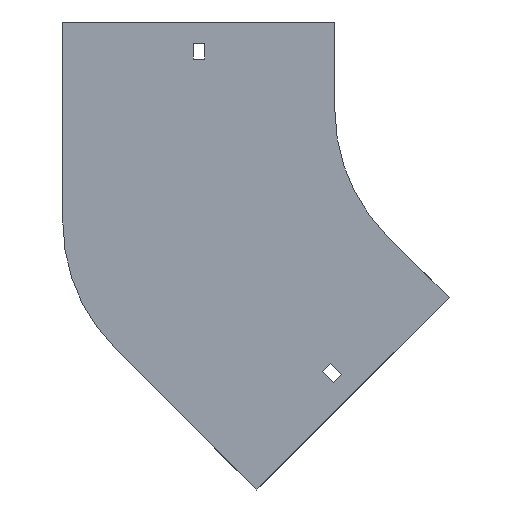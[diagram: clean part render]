
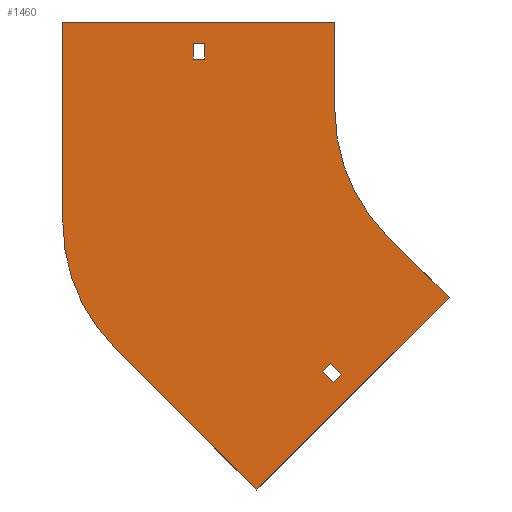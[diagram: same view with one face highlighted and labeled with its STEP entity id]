
A CAD part, front view. The second image highlights one B-rep face of the part: STEP entity #1460.
In plain terms, the highlighted planar face has unit normal (0, -1, 0).
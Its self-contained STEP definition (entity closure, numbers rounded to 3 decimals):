
#9 = EDGE_CURVE ( 'NONE', #274, #455, #315, .T. ) ;
#11 = VERTEX_POINT ( 'NONE', #634 ) ;
#34 = DIRECTION ( 'NONE',  ( 0.707, 0., 0.707 ) ) ;
#74 = VECTOR ( 'NONE', #608, 1000. ) ;
#81 = VERTEX_POINT ( 'NONE', #1666 ) ;
#93 = VECTOR ( 'NONE', #1421, 1000. ) ;
#94 = DIRECTION ( 'NONE',  ( -0.707, 0., 0.707 ) ) ;
#99 = ORIENTED_EDGE ( 'NONE', *, *, #418, .F. ) ;
#107 = DIRECTION ( 'NONE',  ( 0., 0., 1. ) ) ;
#135 = EDGE_CURVE ( 'NONE', #1637, #81, #208, .T. ) ;
#160 = CARTESIAN_POINT ( 'NONE',  ( -173.75, 0., 38. ) ) ;
#169 = CARTESIAN_POINT ( 'NONE',  ( -35.355, 0., -106.066 ) ) ;
#188 = CARTESIAN_POINT ( 'NONE',  ( -100., 0., 50. ) ) ;
#208 = LINE ( 'NONE', #1542, #1818 ) ;
#219 = LINE ( 'NONE', #1611, #1664 ) ;
#243 = DIRECTION ( 'NONE',  ( 0., -1., 0. ) ) ;
#244 = ORIENTED_EDGE ( 'NONE', *, *, #1276, .F. ) ;
#249 = VECTOR ( 'NONE', #786, 1000. ) ;
#274 = VERTEX_POINT ( 'NONE', #994 ) ;
#283 = DIRECTION ( 'NONE',  ( 0., 0., -1. ) ) ;
#285 = CARTESIAN_POINT ( 'NONE',  ( -180.25, 0., 38. ) ) ;
#288 = CARTESIAN_POINT ( 'NONE',  ( -100., 0., 0. ) ) ;
#293 = VERTEX_POINT ( 'NONE', #1581 ) ;
#302 = EDGE_CURVE ( 'NONE', #455, #1237, #680, .T. ) ;
#304 = VERTEX_POINT ( 'NONE', #1911 ) ;
#313 = EDGE_CURVE ( 'NONE', #1348, #11, #530, .T. ) ;
#315 = LINE ( 'NONE', #169, #1461 ) ;
#354 = EDGE_CURVE ( 'NONE', #1370, #274, #219, .T. ) ;
#361 = LINE ( 'NONE', #1568, #93 ) ;
#371 = LINE ( 'NONE', #1844, #1540 ) ;
#376 = VERTEX_POINT ( 'NONE', #1154 ) ;
#383 = CARTESIAN_POINT ( 'NONE',  ( -102.354, 0., -143.366 ) ) ;
#418 = EDGE_CURVE ( 'NONE', #11, #376, #1327, .T. ) ;
#440 = CARTESIAN_POINT ( 'NONE',  ( -180.25, 0., 29. ) ) ;
#455 = VERTEX_POINT ( 'NONE', #1770 ) ;
#498 = EDGE_LOOP ( 'NONE', ( #1279, #762, #852, #1127 ) ) ;
#504 = ORIENTED_EDGE ( 'NONE', *, *, #354, .F. ) ;
#508 = CARTESIAN_POINT ( 'NONE',  ( -70.711, 0., -70.711 ) ) ;
#525 = CARTESIAN_POINT ( 'NONE',  ( -180.25, 0., 29. ) ) ;
#530 = LINE ( 'NONE', #383, #1760 ) ;
#534 = ORIENTED_EDGE ( 'NONE', *, *, #1900, .F. ) ;
#539 = EDGE_CURVE ( 'NONE', #376, #304, #915, .T. ) ;
#549 = ORIENTED_EDGE ( 'NONE', *, *, #313, .F. ) ;
#557 = LINE ( 'NONE', #1152, #713 ) ;
#572 = DIRECTION ( 'NONE',  ( 0., -1., 0. ) ) ;
#606 = LINE ( 'NONE', #1038, #966 ) ;
#608 = DIRECTION ( 'NONE',  ( 0.707, 0., -0.707 ) ) ;
#619 = VECTOR ( 'NONE', #1679, 1000. ) ;
#634 = CARTESIAN_POINT ( 'NONE',  ( -102.354, 0., -143.366 ) ) ;
#657 = LINE ( 'NONE', #188, #249 ) ;
#671 = DIRECTION ( 'NONE',  ( 0.707, 0., -0.707 ) ) ;
#680 = LINE ( 'NONE', #1423, #1701 ) ;
#702 = CARTESIAN_POINT ( 'NONE',  ( 0., 0., 0. ) ) ;
#713 = VECTOR ( 'NONE', #1165, 1000. ) ;
#762 = ORIENTED_EDGE ( 'NONE', *, *, #1172, .T. ) ;
#786 = DIRECTION ( 'NONE',  ( 0., 0., -1. ) ) ;
#830 = EDGE_LOOP ( 'NONE', ( #1853, #1420, #1124, #1534, #1558, #504, #534, #1452 ) ) ;
#831 = ORIENTED_EDGE ( 'NONE', *, *, #539, .F. ) ;
#838 = VERTEX_POINT ( 'NONE', #285 ) ;
#842 = CARTESIAN_POINT ( 'NONE',  ( -154., 0., -63.789 ) ) ;
#852 = ORIENTED_EDGE ( 'NONE', *, *, #135, .T. ) ;
#915 = LINE ( 'NONE', #1376, #74 ) ;
#966 = VECTOR ( 'NONE', #1659, 1000. ) ;
#982 = CIRCLE ( 'NONE', #1621, 100. ) ;
#994 = CARTESIAN_POINT ( 'NONE',  ( -35.355, 0., -106.066 ) ) ;
#1025 = CARTESIAN_POINT ( 'NONE',  ( 0., 0., 0. ) ) ;
#1029 = VECTOR ( 'NONE', #34, 1000. ) ;
#1038 = CARTESIAN_POINT ( 'NONE',  ( -180.25, 0., 38. ) ) ;
#1065 = LINE ( 'NONE', #440, #619 ) ;
#1098 = DIRECTION ( 'NONE',  ( 0., 0., 1. ) ) ;
#1105 = EDGE_CURVE ( 'NONE', #1942, #1803, #557, .T. ) ;
#1124 = ORIENTED_EDGE ( 'NONE', *, *, #1908, .F. ) ;
#1127 = ORIENTED_EDGE ( 'NONE', *, *, #1258, .T. ) ;
#1135 = VERTEX_POINT ( 'NONE', #288 ) ;
#1152 = CARTESIAN_POINT ( 'NONE',  ( -254., 0., -63.789 ) ) ;
#1154 = CARTESIAN_POINT ( 'NONE',  ( -106.95, 0., -147.962 ) ) ;
#1161 = DIRECTION ( 'NONE',  ( 0., 0., -1. ) ) ;
#1162 = EDGE_LOOP ( 'NONE', ( #244, #831, #99, #549 ) ) ;
#1165 = DIRECTION ( 'NONE',  ( 0., 0., 1. ) ) ;
#1172 = EDGE_CURVE ( 'NONE', #838, #1637, #606, .T. ) ;
#1206 = CARTESIAN_POINT ( 'NONE',  ( -100.586, 0., -154.326 ) ) ;
#1237 = VERTEX_POINT ( 'NONE', #1823 ) ;
#1258 = EDGE_CURVE ( 'NONE', #81, #1865, #1065, .T. ) ;
#1276 = EDGE_CURVE ( 'NONE', #304, #1348, #1382, .T. ) ;
#1279 = ORIENTED_EDGE ( 'NONE', *, *, #1323, .T. ) ;
#1323 = EDGE_CURVE ( 'NONE', #1865, #838, #371, .T. ) ;
#1327 = LINE ( 'NONE', #1661, #1351 ) ;
#1329 = FACE_OUTER_BOUND ( 'NONE', #830, .T. ) ;
#1345 = EDGE_CURVE ( 'NONE', #293, #1135, #657, .T. ) ;
#1348 = VERTEX_POINT ( 'NONE', #1392 ) ;
#1351 = VECTOR ( 'NONE', #1920, 1000. ) ;
#1353 = AXIS2_PLACEMENT_3D ( 'NONE', #1025, #572, #283 ) ;
#1370 = VERTEX_POINT ( 'NONE', #508 ) ;
#1373 = DIRECTION ( 'NONE',  ( -0.707, 0., -0.707 ) ) ;
#1376 = CARTESIAN_POINT ( 'NONE',  ( -106.95, 0., -147.962 ) ) ;
#1382 = LINE ( 'NONE', #1206, #1029 ) ;
#1392 = CARTESIAN_POINT ( 'NONE',  ( -95.99, 0., -149.73 ) ) ;
#1405 = EDGE_CURVE ( 'NONE', #1803, #293, #361, .T. ) ;
#1414 = DIRECTION ( 'NONE',  ( 0., 0., -1. ) ) ;
#1420 = ORIENTED_EDGE ( 'NONE', *, *, #1105, .F. ) ;
#1421 = DIRECTION ( 'NONE',  ( 1., 0., 0. ) ) ;
#1423 = CARTESIAN_POINT ( 'NONE',  ( -144.25, 0., -214.96 ) ) ;
#1452 = ORIENTED_EDGE ( 'NONE', *, *, #1345, .F. ) ;
#1459 = AXIS2_PLACEMENT_3D ( 'NONE', #702, #243, #1161 ) ;
#1460 = ADVANCED_FACE ( 'NONE', ( #1923, #1329, #1635 ), #1465, .T. ) ;
#1461 = VECTOR ( 'NONE', #1373, 1000. ) ;
#1465 = PLANE ( 'NONE',  #1353 ) ;
#1467 = DIRECTION ( 'NONE',  ( 0., 1., 0. ) ) ;
#1534 = ORIENTED_EDGE ( 'NONE', *, *, #302, .F. ) ;
#1540 = VECTOR ( 'NONE', #1098, 1000. ) ;
#1542 = CARTESIAN_POINT ( 'NONE',  ( -173.75, 0., 29. ) ) ;
#1558 = ORIENTED_EDGE ( 'NONE', *, *, #9, .F. ) ;
#1568 = CARTESIAN_POINT ( 'NONE',  ( -254., 0., 50. ) ) ;
#1581 = CARTESIAN_POINT ( 'NONE',  ( -100., 0., 50. ) ) ;
#1611 = CARTESIAN_POINT ( 'NONE',  ( -70.711, 0., -70.711 ) ) ;
#1621 = AXIS2_PLACEMENT_3D ( 'NONE', #842, #1467, #107 ) ;
#1635 = FACE_BOUND ( 'NONE', #1162, .T. ) ;
#1637 = VERTEX_POINT ( 'NONE', #160 ) ;
#1659 = DIRECTION ( 'NONE',  ( 1., 0., 0. ) ) ;
#1661 = CARTESIAN_POINT ( 'NONE',  ( -106.95, 0., -147.962 ) ) ;
#1664 = VECTOR ( 'NONE', #671, 1000. ) ;
#1666 = CARTESIAN_POINT ( 'NONE',  ( -173.75, 0., 29. ) ) ;
#1679 = DIRECTION ( 'NONE',  ( -1., 0., 0. ) ) ;
#1683 = CIRCLE ( 'NONE', #1459, 100. ) ;
#1701 = VECTOR ( 'NONE', #94, 1000. ) ;
#1747 = CARTESIAN_POINT ( 'NONE',  ( -254., 0., -63.789 ) ) ;
#1760 = VECTOR ( 'NONE', #1890, 1000. ) ;
#1770 = CARTESIAN_POINT ( 'NONE',  ( -144.25, 0., -214.96 ) ) ;
#1803 = VERTEX_POINT ( 'NONE', #1875 ) ;
#1818 = VECTOR ( 'NONE', #1414, 1000. ) ;
#1823 = CARTESIAN_POINT ( 'NONE',  ( -224.711, 0., -134.5 ) ) ;
#1844 = CARTESIAN_POINT ( 'NONE',  ( -180.25, 0., 29. ) ) ;
#1853 = ORIENTED_EDGE ( 'NONE', *, *, #1405, .F. ) ;
#1865 = VERTEX_POINT ( 'NONE', #525 ) ;
#1875 = CARTESIAN_POINT ( 'NONE',  ( -254., 0., 50. ) ) ;
#1890 = DIRECTION ( 'NONE',  ( -0.707, 0., 0.707 ) ) ;
#1900 = EDGE_CURVE ( 'NONE', #1135, #1370, #1683, .T. ) ;
#1908 = EDGE_CURVE ( 'NONE', #1237, #1942, #982, .T. ) ;
#1911 = CARTESIAN_POINT ( 'NONE',  ( -100.586, 0., -154.326 ) ) ;
#1920 = DIRECTION ( 'NONE',  ( -0.707, 0., -0.707 ) ) ;
#1923 = FACE_BOUND ( 'NONE', #498, .T. ) ;
#1942 = VERTEX_POINT ( 'NONE', #1747 ) ;
